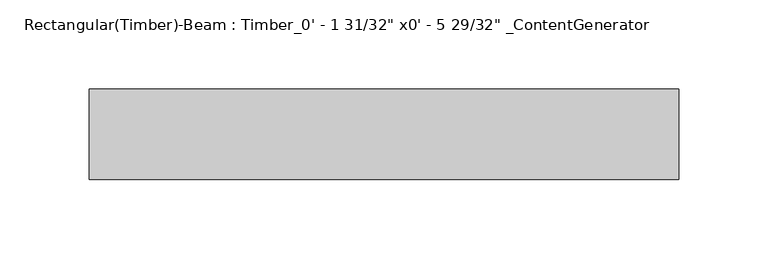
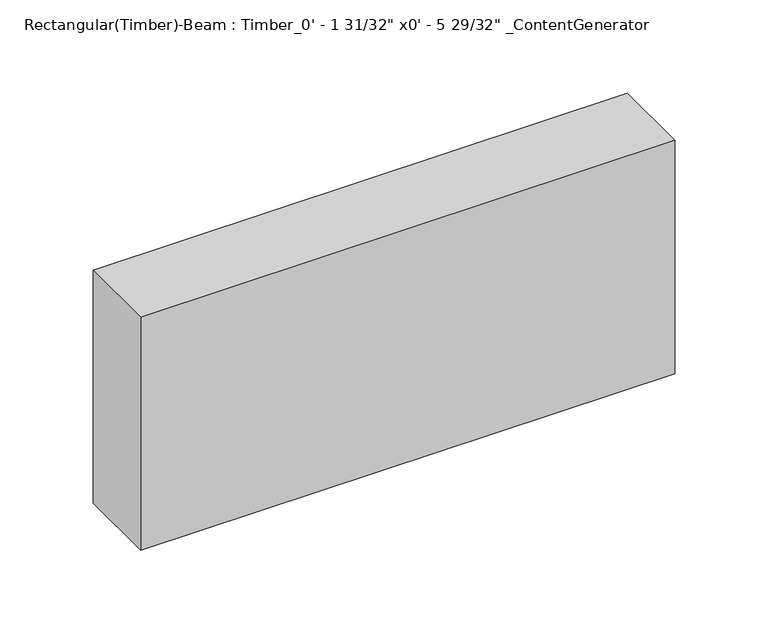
"""IFC4 building model written with IfcOpenShell, lengths in millimetres: beam geometry."""

from ifc_helpers import new_model, si_unit, frame, origin, place, context, project, spatial, polyline, outline, extrude, source, transform, mapped, element, save


def beam_b824596b(model_context):
    return source(origin(), model_context, "Body", "SweptSolid", [
        extrude(outline(polyline([(165.105, 25.4), (165.105, -25.4), (-165.105, -25.4), (-165.105, 25.4), (165.105, 25.4)])), frame((0.0, 0.0, -76.2), z_axis=(0.0, 0.0, 1.0), x_axis=(1.0, 0.0, 0.0)), (0.0, 0.0, 1.0), 152.4),
    ])


if __name__ == "__main__":
    model = new_model("IFC4")
    model_context = context("Model", 3, world=origin())
    ifc_project = project(units=[si_unit("LENGTHUNIT", "METRE", prefix="MILLI")], contexts=[model_context])
    site = spatial("IfcSite", under=ifc_project)
    building = spatial("IfcBuilding", under=site)
    placement = place(None, origin())
    beam_shape = beam_b824596b(model_context)
    element("IfcBeam", 1, ObjectType="Rectangular(Timber)-Beam : Timber_0' - 1 31/32\" x0' - 5 29/32\" _ContentGenerator", at=placement, inside=building, context=model_context, shape_type="MappedRepresentation", body=[
        mapped(beam_shape, transform((0.0, 0.0, 0.0), x_axis=(1.0, 0.0, 0.0), y_axis=(0.0, 1.0, 0.0), z_axis=(0.0, 0.0, 1.0))),
    ])
    save(model, "model.ifc")
